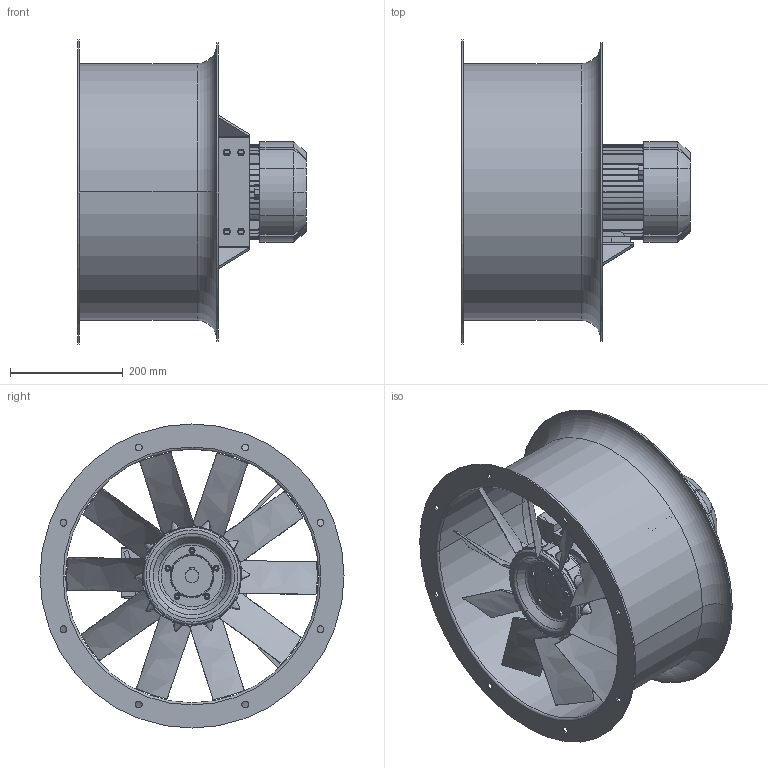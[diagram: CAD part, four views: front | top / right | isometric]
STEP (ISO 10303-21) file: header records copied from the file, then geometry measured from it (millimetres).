
FILE_DESCRIPTION (( 'STEP AP214' ), '1' );
FILE_NAME ('BRV 450_KF_L=250_mot.90.STEP', '2020-09-01T08:00:39', ( '' ), ( '' ), 'SwSTEP 2.0', 'SolidWorks 2016', '' );
FILE_SCHEMA (( 'AUTOMOTIVE_DESIGN' ));
Length unit declared in the file: millimetre
Products named in the file (15): Boss Bolt And Nuts - 445_10-10_45_PAG_3HL_24_8_52_A-122557_4; D2010060001 - 445_10-10_45_PAG_3HL_24_8_52_A-122557; BB-Bolt-Y62006200008_445_10-10_45_PAG_3HL_24_8_52_A-122557; BRV 450_KF_L=250_mot.90; BB-Nut-Y63206000006_445_10-10_45_PAG_3HL_24_8_52_A-122557; 13000204568 - 445_10-10_45_PAG_3HL_24_8_52_A-122557; BRV 450_hus_KF_L=250_mot.90; Boss Bolt And Nuts - 445_10-10_45_PAG_3HL_24_8_52_A-122557; 24000706100 - 445_10-10_45_PAG_3HL_24_8_52_A-122557; Boss Bolt And Nuts - 445_10-10_45_PAG_3HL_24_8_52_A-122557_3; 445_10-10_45_PAG_3HL_24_8_52_A-122557; 20100700103 - 445_10-10_45_PAG_3HL_24_8_52_A-122557; Boss Bolt And Nuts - 445_10-10_45_PAG_3HL_24_8_52_A-122557_2; 1TZ9 A 90L-4 1 5kW B3 IE2; Boss Bolt And Nuts - 445_10-10_45_PAG_3HL_24_8_52_A-122557_5
Assembly tree (31 placements, depth 4):
  BRV 450_KF_L=250_mot.90
    BRV 450_hus_KF_L=250_mot.90
    1TZ9 A 90L-4 1 5kW B3 IE2
    445_10-10_45_PAG_3HL_24_8_52_A-122557
      20100700103 - 445_10-10_45_PAG_3HL_24_8_52_A-122557
      D2010060001 - 445_10-10_45_PAG_3HL_24_8_52_A-122557
      13000204568 - 445_10-10_45_PAG_3HL_24_8_52_A-122557  x10
      24000706100 - 445_10-10_45_PAG_3HL_24_8_52_A-122557
      Boss Bolt And Nuts - 445_10-10_45_PAG_3HL_24_8_52_A-122557
        BB-Bolt-Y62006200008_445_10-10_45_PAG_3HL_24_8_52_A-122557
        BB-Nut-Y63206000006_445_10-10_45_PAG_3HL_24_8_52_A-122557
      Boss Bolt And Nuts - 445_10-10_45_PAG_3HL_24_8_52_A-122557_2
        BB-Bolt-Y62006200008_445_10-10_45_PAG_3HL_24_8_52_A-122557
        BB-Nut-Y63206000006_445_10-10_45_PAG_3HL_24_8_52_A-122557
      Boss Bolt And Nuts - 445_10-10_45_PAG_3HL_24_8_52_A-122557_3
        BB-Bolt-Y62006200008_445_10-10_45_PAG_3HL_24_8_52_A-122557
        BB-Nut-Y63206000006_445_10-10_45_PAG_3HL_24_8_52_A-122557
      Boss Bolt And Nuts - 445_10-10_45_PAG_3HL_24_8_52_A-122557_4
        BB-Bolt-Y62006200008_445_10-10_45_PAG_3HL_24_8_52_A-122557
        BB-Nut-Y63206000006_445_10-10_45_PAG_3HL_24_8_52_A-122557
      Boss Bolt And Nuts - 445_10-10_45_PAG_3HL_24_8_52_A-122557_5
        BB-Bolt-Y62006200008_445_10-10_45_PAG_3HL_24_8_52_A-122557
        BB-Nut-Y63206000006_445_10-10_45_PAG_3HL_24_8_52_A-122557
Bounding box: 406 x 540 x 540 mm (x, y, z)
Volume: 8401614.6 mm3; surface area: 1895559 mm2
Topology: 27 solids, 27 shells, 1635 faces, 4191 edges, 2652 vertices
Faces by surface type: plane 726, cone 408, bspline 281, cylinder 212, torus 8
Entity records: 40064 total; most frequent: CARTESIAN_POINT 13053, ORIENTED_EDGE 5692, DIRECTION 5454, EDGE_CURVE 2846, AXIS2_PLACEMENT_3D 1991, VERTEX_POINT 1870, VECTOR 1472, LINE 1472
